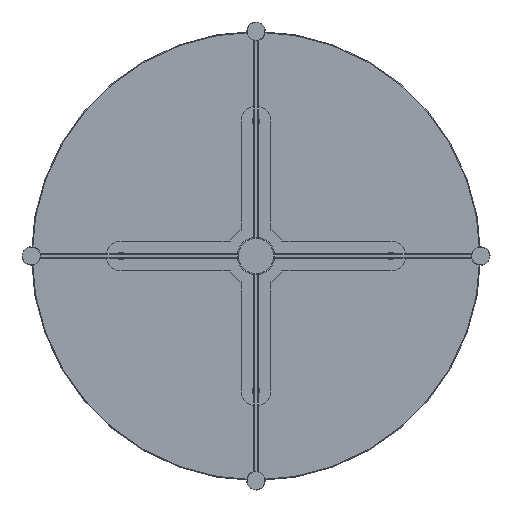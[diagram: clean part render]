
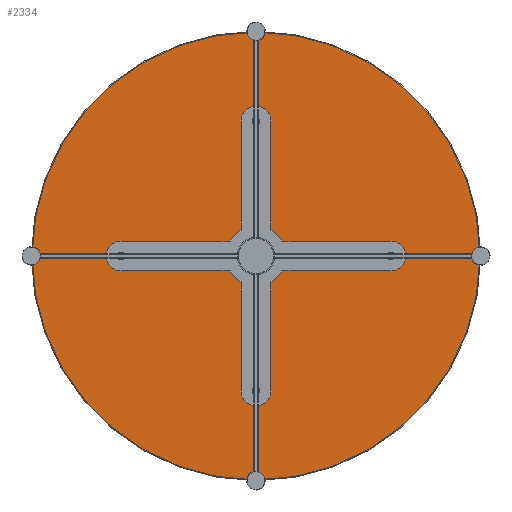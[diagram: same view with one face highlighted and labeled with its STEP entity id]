
A CAD part, front view. The second image highlights one B-rep face of the part: STEP entity #2334.
In plain terms, the highlighted planar face has unit normal (0, -1, 0).
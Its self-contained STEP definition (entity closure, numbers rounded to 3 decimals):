
#92 = ORIENTED_EDGE ( 'NONE', *, *, #640, .F. ) ;
#98 = CARTESIAN_POINT ( 'NONE',  ( 0., -10., 0. ) ) ;
#243 = EDGE_LOOP ( 'NONE', ( #6160, #10078 ) ) ;
#456 = CARTESIAN_POINT ( 'NONE',  ( 0., -10., -180. ) ) ;
#471 = DIRECTION ( 'NONE',  ( 0., 0., -1. ) ) ;
#628 = CIRCLE ( 'NONE', #7813, 3. ) ;
#640 = EDGE_CURVE ( 'NONE', #4413, #703, #5878, .T. ) ;
#703 = VERTEX_POINT ( 'NONE', #9219 ) ;
#801 = CARTESIAN_POINT ( 'NONE',  ( 0., -10., -183. ) ) ;
#880 = EDGE_LOOP ( 'NONE', ( #92, #10708 ) ) ;
#1006 = CARTESIAN_POINT ( 'NONE',  ( 0., -10., 0. ) ) ;
#1046 = AXIS2_PLACEMENT_3D ( 'NONE', #6194, #10578, #8913 ) ;
#1123 = DIRECTION ( 'NONE',  ( 0., -1., 0. ) ) ;
#1361 = AXIS2_PLACEMENT_3D ( 'NONE', #4259, #7663, #5062 ) ;
#1401 = EDGE_CURVE ( 'NONE', #6761, #11001, #6353, .T. ) ;
#1450 = AXIS2_PLACEMENT_3D ( 'NONE', #5721, #8384, #471 ) ;
#1465 = AXIS2_PLACEMENT_3D ( 'NONE', #10997, #2127, #2014 ) ;
#1502 = CARTESIAN_POINT ( 'NONE',  ( 0., -10., -177. ) ) ;
#1522 = ORIENTED_EDGE ( 'NONE', *, *, #3753, .F. ) ;
#1790 = DIRECTION ( 'NONE',  ( 0., -1., 0. ) ) ;
#1907 = DIRECTION ( 'NONE',  ( 0., 0., -1. ) ) ;
#2014 = DIRECTION ( 'NONE',  ( 0., 0., -1. ) ) ;
#2094 = AXIS2_PLACEMENT_3D ( 'NONE', #4780, #2950, #1907 ) ;
#2127 = DIRECTION ( 'NONE',  ( 0., -1., 0. ) ) ;
#2334 = ADVANCED_FACE ( 'NONE', ( #7879, #7061, #6306, #3716, #7177 ), #5446, .F. ) ;
#2556 = EDGE_LOOP ( 'NONE', ( #7933, #11093 ) ) ;
#2603 = DIRECTION ( 'NONE',  ( 0., -1., 0. ) ) ;
#2894 = AXIS2_PLACEMENT_3D ( 'NONE', #456, #9167, #10948 ) ;
#2950 = DIRECTION ( 'NONE',  ( 0., -1., 0. ) ) ;
#3465 = CARTESIAN_POINT ( 'NONE',  ( 0., -10., 180. ) ) ;
#3716 = FACE_BOUND ( 'NONE', #880, .T. ) ;
#3748 = CARTESIAN_POINT ( 'NONE',  ( 180., -10., 3. ) ) ;
#3753 = EDGE_CURVE ( 'NONE', #4250, #9478, #9469, .T. ) ;
#3845 = AXIS2_PLACEMENT_3D ( 'NONE', #5877, #5934, #7850 ) ;
#3886 = VERTEX_POINT ( 'NONE', #801 ) ;
#3916 = ORIENTED_EDGE ( 'NONE', *, *, #10718, .F. ) ;
#4209 = CIRCLE ( 'NONE', #8820, 3. ) ;
#4217 = CIRCLE ( 'NONE', #1450, 3. ) ;
#4250 = VERTEX_POINT ( 'NONE', #5144 ) ;
#4259 = CARTESIAN_POINT ( 'NONE',  ( 180., -10., 0. ) ) ;
#4357 = DIRECTION ( 'NONE',  ( 0., -1., 0. ) ) ;
#4413 = VERTEX_POINT ( 'NONE', #6122 ) ;
#4516 = DIRECTION ( 'NONE',  ( 0., 0., 1. ) ) ;
#4585 = AXIS2_PLACEMENT_3D ( 'NONE', #1006, #1123, #4516 ) ;
#4664 = EDGE_CURVE ( 'NONE', #10010, #10344, #628, .T. ) ;
#4780 = CARTESIAN_POINT ( 'NONE',  ( -180., -10., 0. ) ) ;
#4863 = EDGE_CURVE ( 'NONE', #703, #4413, #6695, .T. ) ;
#5035 = ORIENTED_EDGE ( 'NONE', *, *, #4664, .F. ) ;
#5062 = DIRECTION ( 'NONE',  ( 0., 0., -1. ) ) ;
#5144 = CARTESIAN_POINT ( 'NONE',  ( 180., -10., -3. ) ) ;
#5446 = PLANE ( 'NONE',  #1046 ) ;
#5721 = CARTESIAN_POINT ( 'NONE',  ( 180., -10., 0. ) ) ;
#5877 = CARTESIAN_POINT ( 'NONE',  ( 0., -10., 180. ) ) ;
#5878 = CIRCLE ( 'NONE', #1465, 3. ) ;
#5934 = DIRECTION ( 'NONE',  ( 0., -1., 0. ) ) ;
#6122 = CARTESIAN_POINT ( 'NONE',  ( -180., -10., -3. ) ) ;
#6160 = ORIENTED_EDGE ( 'NONE', *, *, #10589, .T. ) ;
#6194 = CARTESIAN_POINT ( 'NONE',  ( 0., -10., 0. ) ) ;
#6271 = CARTESIAN_POINT ( 'NONE',  ( 0., -10., 177. ) ) ;
#6306 = FACE_BOUND ( 'NONE', #7864, .T. ) ;
#6353 = CIRCLE ( 'NONE', #10956, 299. ) ;
#6411 = EDGE_LOOP ( 'NONE', ( #1522, #3916 ) ) ;
#6695 = CIRCLE ( 'NONE', #2094, 3. ) ;
#6761 = VERTEX_POINT ( 'NONE', #7023 ) ;
#6826 = ORIENTED_EDGE ( 'NONE', *, *, #6996, .F. ) ;
#6928 = EDGE_CURVE ( 'NONE', #7002, #3886, #4209, .T. ) ;
#6996 = EDGE_CURVE ( 'NONE', #10344, #10010, #9010, .T. ) ;
#7002 = VERTEX_POINT ( 'NONE', #1502 ) ;
#7023 = CARTESIAN_POINT ( 'NONE',  ( 0., -10., -299. ) ) ;
#7061 = FACE_BOUND ( 'NONE', #6411, .T. ) ;
#7177 = FACE_BOUND ( 'NONE', #2556, .T. ) ;
#7314 = CIRCLE ( 'NONE', #2894, 3. ) ;
#7663 = DIRECTION ( 'NONE',  ( 0., -1., 0. ) ) ;
#7737 = CARTESIAN_POINT ( 'NONE',  ( 0., -10., -180. ) ) ;
#7813 = AXIS2_PLACEMENT_3D ( 'NONE', #3465, #1790, #8669 ) ;
#7850 = DIRECTION ( 'NONE',  ( 0., 0., -1. ) ) ;
#7864 = EDGE_LOOP ( 'NONE', ( #5035, #6826 ) ) ;
#7879 = FACE_OUTER_BOUND ( 'NONE', #243, .T. ) ;
#7933 = ORIENTED_EDGE ( 'NONE', *, *, #9600, .F. ) ;
#8384 = DIRECTION ( 'NONE',  ( 0., -1., 0. ) ) ;
#8669 = DIRECTION ( 'NONE',  ( 0., 0., -1. ) ) ;
#8781 = CARTESIAN_POINT ( 'NONE',  ( 0., -10., 299. ) ) ;
#8820 = AXIS2_PLACEMENT_3D ( 'NONE', #7737, #2603, #9629 ) ;
#8913 = DIRECTION ( 'NONE',  ( 0., 0., 1. ) ) ;
#8926 = DIRECTION ( 'NONE',  ( 0., 0., 1. ) ) ;
#9010 = CIRCLE ( 'NONE', #3845, 3. ) ;
#9167 = DIRECTION ( 'NONE',  ( 0., -1., 0. ) ) ;
#9219 = CARTESIAN_POINT ( 'NONE',  ( -180., -10., 3. ) ) ;
#9469 = CIRCLE ( 'NONE', #1361, 3. ) ;
#9478 = VERTEX_POINT ( 'NONE', #3748 ) ;
#9560 = CIRCLE ( 'NONE', #4585, 299. ) ;
#9600 = EDGE_CURVE ( 'NONE', #3886, #7002, #7314, .T. ) ;
#9629 = DIRECTION ( 'NONE',  ( 0., 0., -1. ) ) ;
#10010 = VERTEX_POINT ( 'NONE', #6271 ) ;
#10078 = ORIENTED_EDGE ( 'NONE', *, *, #1401, .T. ) ;
#10344 = VERTEX_POINT ( 'NONE', #11255 ) ;
#10578 = DIRECTION ( 'NONE',  ( 0., 1., 0. ) ) ;
#10589 = EDGE_CURVE ( 'NONE', #11001, #6761, #9560, .T. ) ;
#10708 = ORIENTED_EDGE ( 'NONE', *, *, #4863, .F. ) ;
#10718 = EDGE_CURVE ( 'NONE', #9478, #4250, #4217, .T. ) ;
#10948 = DIRECTION ( 'NONE',  ( 0., 0., -1. ) ) ;
#10956 = AXIS2_PLACEMENT_3D ( 'NONE', #98, #4357, #8926 ) ;
#10997 = CARTESIAN_POINT ( 'NONE',  ( -180., -10., 0. ) ) ;
#11001 = VERTEX_POINT ( 'NONE', #8781 ) ;
#11093 = ORIENTED_EDGE ( 'NONE', *, *, #6928, .F. ) ;
#11255 = CARTESIAN_POINT ( 'NONE',  ( 0., -10., 183. ) ) ;
